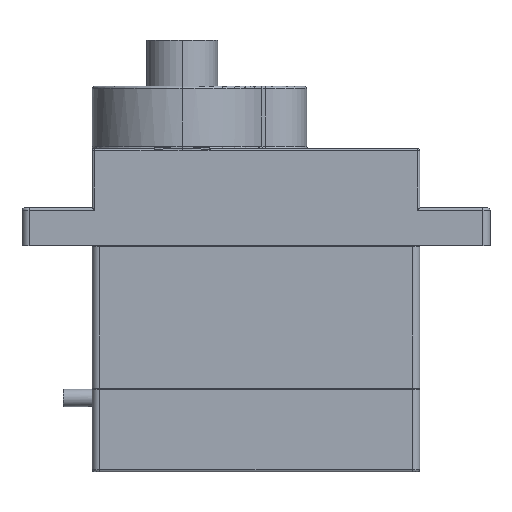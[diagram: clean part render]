
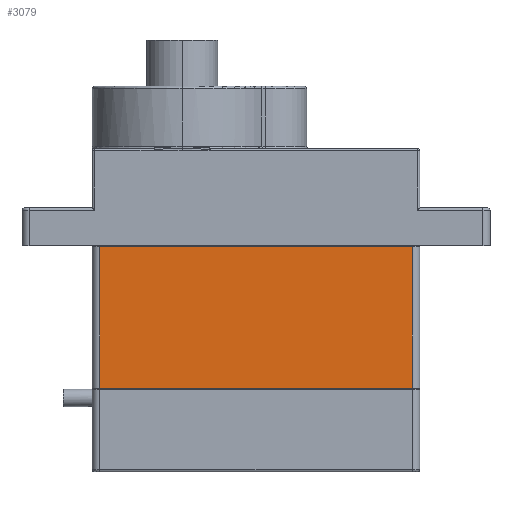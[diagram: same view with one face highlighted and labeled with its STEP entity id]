
A CAD part, top view. The second image highlights one B-rep face of the part: STEP entity #3079.
In plain terms, the highlighted planar face has unit normal (0, 0, 1).
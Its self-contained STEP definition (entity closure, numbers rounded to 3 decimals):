
#2697 = PLANE('',#2698);
#2698 = AXIS2_PLACEMENT_3D('',#2699,#2700,#2701);
#2699 = CARTESIAN_POINT('',(18.609,9.115,
    31.777));
#2700 = DIRECTION('',(0.,-1.,0.));
#2701 = DIRECTION('',(0.,0.,-1.));
#2752 = PLANE('',#2753);
#2753 = AXIS2_PLACEMENT_3D('',#2754,#2755,#2756);
#2754 = CARTESIAN_POINT('',(18.609,18.915,
    31.777));
#2755 = DIRECTION('',(0.,-1.,0.));
#2756 = DIRECTION('',(0.,0.,-1.));
#2885 = CYLINDRICAL_SURFACE('',#2886,0.5);
#2886 = AXIS2_PLACEMENT_3D('',#2887,#2888,#2889);
#2887 = CARTESIAN_POINT('',(-2.991,18.965,
    31.777));
#2888 = DIRECTION('',(0.,-1.,0.));
#2889 = DIRECTION('',(0.,0.,-1.));
#2905 = VERTEX_POINT('',#2906);
#2906 = CARTESIAN_POINT('',(-2.991,9.115,
    32.277));
#2928 = EDGE_CURVE('',#2929,#2905,#2931,.T.);
#2929 = VERTEX_POINT('',#2930);
#2930 = CARTESIAN_POINT('',(-2.991,18.915,
    32.277));
#2931 = SURFACE_CURVE('',#2932,(#2936,#2943),.PCURVE_S1.);
#2932 = LINE('',#2933,#2934);
#2933 = CARTESIAN_POINT('',(-2.991,18.965,
    32.277));
#2934 = VECTOR('',#2935,1.);
#2935 = DIRECTION('',(0.,-1.,0.));
#2936 = PCURVE('',#2885,#2937);
#2937 = DEFINITIONAL_REPRESENTATION('',(#2938),#2942);
#2938 = LINE('',#2939,#2940);
#2939 = CARTESIAN_POINT('',(3.142,0.));
#2940 = VECTOR('',#2941,1.);
#2941 = DIRECTION('',(0.,1.));
#2942 = ( GEOMETRIC_REPRESENTATION_CONTEXT(2) 
PARAMETRIC_REPRESENTATION_CONTEXT() REPRESENTATION_CONTEXT('2D SPACE',''
  ) );
#2943 = PCURVE('',#2944,#2949);
#2944 = PLANE('',#2945);
#2945 = AXIS2_PLACEMENT_3D('',#2946,#2947,#2948);
#2946 = CARTESIAN_POINT('',(-3.491,18.965,
    32.277));
#2947 = DIRECTION('',(0.,0.,-1.));
#2948 = DIRECTION('',(-1.,0.,0.));
#2949 = DEFINITIONAL_REPRESENTATION('',(#2950),#2954);
#2950 = LINE('',#2951,#2952);
#2951 = CARTESIAN_POINT('',(-0.5,0.));
#2952 = VECTOR('',#2953,1.);
#2953 = DIRECTION('',(-0.,-1.));
#2954 = ( GEOMETRIC_REPRESENTATION_CONTEXT(2) 
PARAMETRIC_REPRESENTATION_CONTEXT() REPRESENTATION_CONTEXT('2D SPACE',''
  ) );
#2981 = EDGE_CURVE('',#2982,#2984,#2986,.T.);
#2982 = VERTEX_POINT('',#2983);
#2983 = CARTESIAN_POINT('',(18.609,9.115,
    32.277));
#2984 = VERTEX_POINT('',#2985);
#2985 = CARTESIAN_POINT('',(18.609,18.915,
    32.277));
#2986 = SURFACE_CURVE('',#2987,(#2991,#3003),.PCURVE_S1.);
#2987 = LINE('',#2988,#2989);
#2988 = CARTESIAN_POINT('',(18.609,18.965,
    32.277));
#2989 = VECTOR('',#2990,1.);
#2990 = DIRECTION('',(0.,1.,0.));
#2991 = PCURVE('',#2992,#2997);
#2992 = CYLINDRICAL_SURFACE('',#2993,0.5);
#2993 = AXIS2_PLACEMENT_3D('',#2994,#2995,#2996);
#2994 = CARTESIAN_POINT('',(18.609,18.965,
    31.777));
#2995 = DIRECTION('',(0.,-1.,0.));
#2996 = DIRECTION('',(0.,0.,-1.));
#2997 = DEFINITIONAL_REPRESENTATION('',(#2998),#3002);
#2998 = LINE('',#2999,#3000);
#2999 = CARTESIAN_POINT('',(3.142,0.));
#3000 = VECTOR('',#3001,1.);
#3001 = DIRECTION('',(0.,-1.));
#3002 = ( GEOMETRIC_REPRESENTATION_CONTEXT(2) 
PARAMETRIC_REPRESENTATION_CONTEXT() REPRESENTATION_CONTEXT('2D SPACE',''
  ) );
#3003 = PCURVE('',#2944,#3004);
#3004 = DEFINITIONAL_REPRESENTATION('',(#3005),#3009);
#3005 = LINE('',#3006,#3007);
#3006 = CARTESIAN_POINT('',(-22.1,0.));
#3007 = VECTOR('',#3008,1.);
#3008 = DIRECTION('',(0.,1.));
#3009 = ( GEOMETRIC_REPRESENTATION_CONTEXT(2) 
PARAMETRIC_REPRESENTATION_CONTEXT() REPRESENTATION_CONTEXT('2D SPACE',''
  ) );
#3079 = ADVANCED_FACE('',(#3080),#2944,.F.);
#3080 = FACE_BOUND('',#3081,.T.);
#3081 = EDGE_LOOP('',(#3082,#3103,#3104,#3125));
#3082 = ORIENTED_EDGE('',*,*,#3083,.F.);
#3083 = EDGE_CURVE('',#2982,#2905,#3084,.T.);
#3084 = SURFACE_CURVE('',#3085,(#3089,#3096),.PCURVE_S1.);
#3085 = LINE('',#3086,#3087);
#3086 = CARTESIAN_POINT('',(18.609,9.115,
    32.277));
#3087 = VECTOR('',#3088,1.);
#3088 = DIRECTION('',(-1.,0.,0.));
#3089 = PCURVE('',#2944,#3090);
#3090 = DEFINITIONAL_REPRESENTATION('',(#3091),#3095);
#3091 = LINE('',#3092,#3093);
#3092 = CARTESIAN_POINT('',(-22.1,-9.85));
#3093 = VECTOR('',#3094,1.);
#3094 = DIRECTION('',(1.,0.));
#3095 = ( GEOMETRIC_REPRESENTATION_CONTEXT(2) 
PARAMETRIC_REPRESENTATION_CONTEXT() REPRESENTATION_CONTEXT('2D SPACE',''
  ) );
#3096 = PCURVE('',#2697,#3097);
#3097 = DEFINITIONAL_REPRESENTATION('',(#3098),#3102);
#3098 = LINE('',#3099,#3100);
#3099 = CARTESIAN_POINT('',(-0.5,0.));
#3100 = VECTOR('',#3101,1.);
#3101 = DIRECTION('',(0.,-1.));
#3102 = ( GEOMETRIC_REPRESENTATION_CONTEXT(2) 
PARAMETRIC_REPRESENTATION_CONTEXT() REPRESENTATION_CONTEXT('2D SPACE',''
  ) );
#3103 = ORIENTED_EDGE('',*,*,#2981,.T.);
#3104 = ORIENTED_EDGE('',*,*,#3105,.T.);
#3105 = EDGE_CURVE('',#2984,#2929,#3106,.T.);
#3106 = SURFACE_CURVE('',#3107,(#3111,#3118),.PCURVE_S1.);
#3107 = LINE('',#3108,#3109);
#3108 = CARTESIAN_POINT('',(-2.991,18.915,
    32.277));
#3109 = VECTOR('',#3110,1.);
#3110 = DIRECTION('',(-1.,0.,0.));
#3111 = PCURVE('',#2944,#3112);
#3112 = DEFINITIONAL_REPRESENTATION('',(#3113),#3117);
#3113 = LINE('',#3114,#3115);
#3114 = CARTESIAN_POINT('',(-0.5,-0.05));
#3115 = VECTOR('',#3116,1.);
#3116 = DIRECTION('',(1.,0.));
#3117 = ( GEOMETRIC_REPRESENTATION_CONTEXT(2) 
PARAMETRIC_REPRESENTATION_CONTEXT() REPRESENTATION_CONTEXT('2D SPACE',''
  ) );
#3118 = PCURVE('',#2752,#3119);
#3119 = DEFINITIONAL_REPRESENTATION('',(#3120),#3124);
#3120 = LINE('',#3121,#3122);
#3121 = CARTESIAN_POINT('',(-0.5,-21.6));
#3122 = VECTOR('',#3123,1.);
#3123 = DIRECTION('',(0.,-1.));
#3124 = ( GEOMETRIC_REPRESENTATION_CONTEXT(2) 
PARAMETRIC_REPRESENTATION_CONTEXT() REPRESENTATION_CONTEXT('2D SPACE',''
  ) );
#3125 = ORIENTED_EDGE('',*,*,#2928,.T.);
